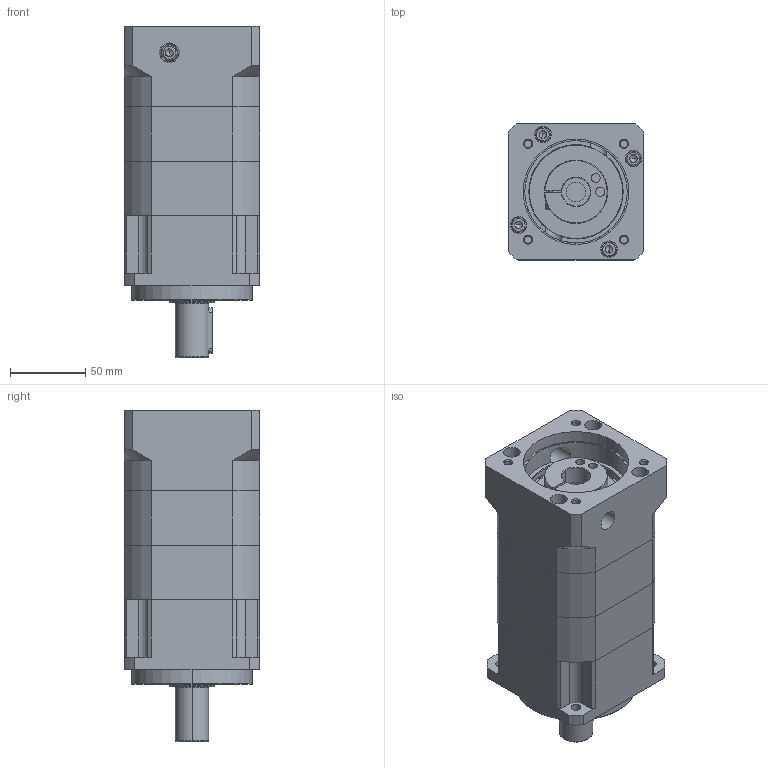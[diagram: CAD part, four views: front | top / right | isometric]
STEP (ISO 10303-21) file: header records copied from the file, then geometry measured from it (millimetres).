
FILE_DESCRIPTION (( 'STEP AP214' ), '1' );
FILE_NAME ('PGH090-L3-[ ]-P2 19-70-90-M6 bzsc22.STEP', '2024-05-29T06:05:31', ( '' ), ( '' ), 'SwSTEP 2.0', 'SolidWorks 2021', '' );
FILE_SCHEMA (( 'AUTOMOTIVE_DESIGN' ));
Length unit declared in the file: millimetre
Products named in the file (1): PGH090-L3-[ ]-P2 19-70-90-M6 bzsc22
Bounding box: 90 x 90 x 220 mm (x, y, z)
Volume: 1233345.8 mm3; surface area: 171884.5 mm2
Topology: 11 solids, 11 shells, 1300 faces, 3402 edges, 2232 vertices
Faces by surface type: plane 701, bspline 306, cylinder 211, cone 61, torus 21
Entity records: 55661 total; most frequent: CARTESIAN_POINT 23908, ORIENTED_EDGE 6780, DIRECTION 5282, EDGE_CURVE 3390, VERTEX_POINT 2232, VECTOR 2188, LINE 2188, AXIS2_PLACEMENT_3D 1547
